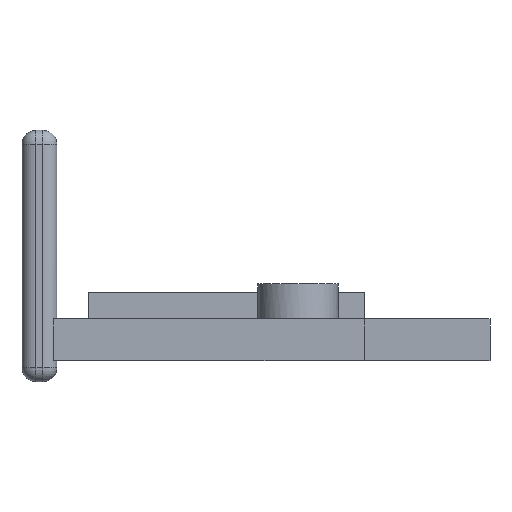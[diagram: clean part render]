
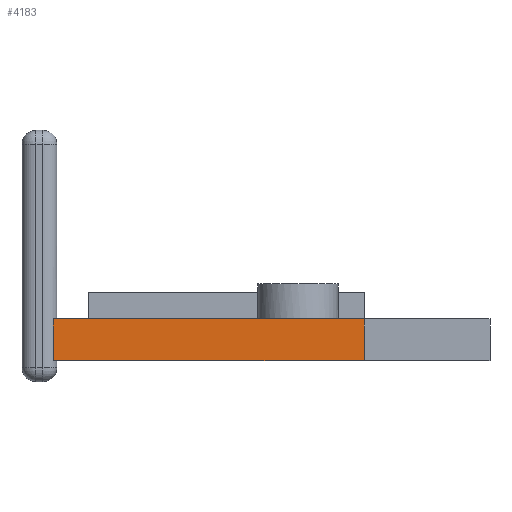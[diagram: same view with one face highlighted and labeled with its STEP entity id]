
A CAD part, front view. The second image highlights one B-rep face of the part: STEP entity #4183.
In plain terms, the highlighted planar face has unit normal (0, -1, 0).
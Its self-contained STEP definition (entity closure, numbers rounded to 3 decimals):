
#1706 = PLANE('',#1707);
#1707 = AXIS2_PLACEMENT_3D('',#1708,#1709,#1710);
#1708 = CARTESIAN_POINT('',(-59.4,-5.2,33.4));
#1709 = DIRECTION('',(0.,0.,1.));
#1710 = DIRECTION('',(1.,0.,0.));
#1958 = PLANE('',#1959);
#1959 = AXIS2_PLACEMENT_3D('',#1960,#1961,#1962);
#1960 = CARTESIAN_POINT('',(-59.4,-5.2,31.));
#1961 = DIRECTION('',(1.,0.,0.));
#1962 = DIRECTION('',(0.,0.,1.));
#1984 = PLANE('',#1985);
#1985 = AXIS2_PLACEMENT_3D('',#1986,#1987,#1988);
#1986 = CARTESIAN_POINT('',(-59.4,-5.2,31.));
#1987 = DIRECTION('',(0.,0.,1.));
#1988 = DIRECTION('',(1.,0.,0.));
#2545 = VERTEX_POINT('',#2546);
#2546 = CARTESIAN_POINT('',(-59.4,-5.2,33.4));
#2567 = EDGE_CURVE('',#2545,#2568,#2570,.T.);
#2568 = VERTEX_POINT('',#2569);
#2569 = CARTESIAN_POINT('',(-41.6,-5.2,33.4));
#2570 = SURFACE_CURVE('',#2571,(#2575,#2582),.PCURVE_S1.);
#2571 = LINE('',#2572,#2573);
#2572 = CARTESIAN_POINT('',(-59.4,-5.2,33.4));
#2573 = VECTOR('',#2574,1.);
#2574 = DIRECTION('',(1.,0.,0.));
#2575 = PCURVE('',#1706,#2576);
#2576 = DEFINITIONAL_REPRESENTATION('',(#2577),#2581);
#2577 = LINE('',#2578,#2579);
#2578 = CARTESIAN_POINT('',(0.,0.));
#2579 = VECTOR('',#2580,1.);
#2580 = DIRECTION('',(1.,0.));
#2581 = ( GEOMETRIC_REPRESENTATION_CONTEXT(2) 
PARAMETRIC_REPRESENTATION_CONTEXT() REPRESENTATION_CONTEXT('2D SPACE',''
  ) );
#2582 = PCURVE('',#2583,#2588);
#2583 = PLANE('',#2584);
#2584 = AXIS2_PLACEMENT_3D('',#2585,#2586,#2587);
#2585 = CARTESIAN_POINT('',(-59.4,-5.2,31.));
#2586 = DIRECTION('',(0.,1.,0.));
#2587 = DIRECTION('',(0.,0.,1.));
#2588 = DEFINITIONAL_REPRESENTATION('',(#2589),#2593);
#2589 = LINE('',#2590,#2591);
#2590 = CARTESIAN_POINT('',(2.4,0.));
#2591 = VECTOR('',#2592,1.);
#2592 = DIRECTION('',(0.,1.));
#2593 = ( GEOMETRIC_REPRESENTATION_CONTEXT(2) 
PARAMETRIC_REPRESENTATION_CONTEXT() REPRESENTATION_CONTEXT('2D SPACE',''
  ) );
#2611 = PLANE('',#2612);
#2612 = AXIS2_PLACEMENT_3D('',#2613,#2614,#2615);
#2613 = CARTESIAN_POINT('',(-41.6,-5.2,31.));
#2614 = DIRECTION('',(1.,0.,0.));
#2615 = DIRECTION('',(0.,0.,1.));
#3212 = VERTEX_POINT('',#3213);
#3213 = CARTESIAN_POINT('',(-59.4,-5.2,31.));
#3234 = EDGE_CURVE('',#3212,#3235,#3237,.T.);
#3235 = VERTEX_POINT('',#3236);
#3236 = CARTESIAN_POINT('',(-41.6,-5.2,31.));
#3237 = SURFACE_CURVE('',#3238,(#3242,#3249),.PCURVE_S1.);
#3238 = LINE('',#3239,#3240);
#3239 = CARTESIAN_POINT('',(-59.4,-5.2,31.));
#3240 = VECTOR('',#3241,1.);
#3241 = DIRECTION('',(1.,0.,0.));
#3242 = PCURVE('',#1984,#3243);
#3243 = DEFINITIONAL_REPRESENTATION('',(#3244),#3248);
#3244 = LINE('',#3245,#3246);
#3245 = CARTESIAN_POINT('',(0.,0.));
#3246 = VECTOR('',#3247,1.);
#3247 = DIRECTION('',(1.,0.));
#3248 = ( GEOMETRIC_REPRESENTATION_CONTEXT(2) 
PARAMETRIC_REPRESENTATION_CONTEXT() REPRESENTATION_CONTEXT('2D SPACE',''
  ) );
#3249 = PCURVE('',#2583,#3250);
#3250 = DEFINITIONAL_REPRESENTATION('',(#3251),#3255);
#3251 = LINE('',#3252,#3253);
#3252 = CARTESIAN_POINT('',(0.,0.));
#3253 = VECTOR('',#3254,1.);
#3254 = DIRECTION('',(0.,1.));
#3255 = ( GEOMETRIC_REPRESENTATION_CONTEXT(2) 
PARAMETRIC_REPRESENTATION_CONTEXT() REPRESENTATION_CONTEXT('2D SPACE',''
  ) );
#3603 = EDGE_CURVE('',#3212,#2545,#3604,.T.);
#3604 = SURFACE_CURVE('',#3605,(#3609,#3616),.PCURVE_S1.);
#3605 = LINE('',#3606,#3607);
#3606 = CARTESIAN_POINT('',(-59.4,-5.2,31.));
#3607 = VECTOR('',#3608,1.);
#3608 = DIRECTION('',(0.,0.,1.));
#3609 = PCURVE('',#1958,#3610);
#3610 = DEFINITIONAL_REPRESENTATION('',(#3611),#3615);
#3611 = LINE('',#3612,#3613);
#3612 = CARTESIAN_POINT('',(0.,0.));
#3613 = VECTOR('',#3614,1.);
#3614 = DIRECTION('',(1.,0.));
#3615 = ( GEOMETRIC_REPRESENTATION_CONTEXT(2) 
PARAMETRIC_REPRESENTATION_CONTEXT() REPRESENTATION_CONTEXT('2D SPACE',''
  ) );
#3616 = PCURVE('',#2583,#3617);
#3617 = DEFINITIONAL_REPRESENTATION('',(#3618),#3622);
#3618 = LINE('',#3619,#3620);
#3619 = CARTESIAN_POINT('',(0.,0.));
#3620 = VECTOR('',#3621,1.);
#3621 = DIRECTION('',(1.,0.));
#3622 = ( GEOMETRIC_REPRESENTATION_CONTEXT(2) 
PARAMETRIC_REPRESENTATION_CONTEXT() REPRESENTATION_CONTEXT('2D SPACE',''
  ) );
#4119 = EDGE_CURVE('',#3235,#2568,#4120,.T.);
#4120 = SURFACE_CURVE('',#4121,(#4125,#4132),.PCURVE_S1.);
#4121 = LINE('',#4122,#4123);
#4122 = CARTESIAN_POINT('',(-41.6,-5.2,31.));
#4123 = VECTOR('',#4124,1.);
#4124 = DIRECTION('',(0.,0.,1.));
#4125 = PCURVE('',#2611,#4126);
#4126 = DEFINITIONAL_REPRESENTATION('',(#4127),#4131);
#4127 = LINE('',#4128,#4129);
#4128 = CARTESIAN_POINT('',(0.,0.));
#4129 = VECTOR('',#4130,1.);
#4130 = DIRECTION('',(1.,0.));
#4131 = ( GEOMETRIC_REPRESENTATION_CONTEXT(2) 
PARAMETRIC_REPRESENTATION_CONTEXT() REPRESENTATION_CONTEXT('2D SPACE',''
  ) );
#4132 = PCURVE('',#2583,#4133);
#4133 = DEFINITIONAL_REPRESENTATION('',(#4134),#4138);
#4134 = LINE('',#4135,#4136);
#4135 = CARTESIAN_POINT('',(0.,17.8));
#4136 = VECTOR('',#4137,1.);
#4137 = DIRECTION('',(1.,0.));
#4138 = ( GEOMETRIC_REPRESENTATION_CONTEXT(2) 
PARAMETRIC_REPRESENTATION_CONTEXT() REPRESENTATION_CONTEXT('2D SPACE',''
  ) );
#4183 = ADVANCED_FACE('',(#4184),#2583,.F.);
#4184 = FACE_BOUND('',#4185,.F.);
#4185 = EDGE_LOOP('',(#4186,#4187,#4188,#4189));
#4186 = ORIENTED_EDGE('',*,*,#3234,.F.);
#4187 = ORIENTED_EDGE('',*,*,#3603,.T.);
#4188 = ORIENTED_EDGE('',*,*,#2567,.T.);
#4189 = ORIENTED_EDGE('',*,*,#4119,.F.);
